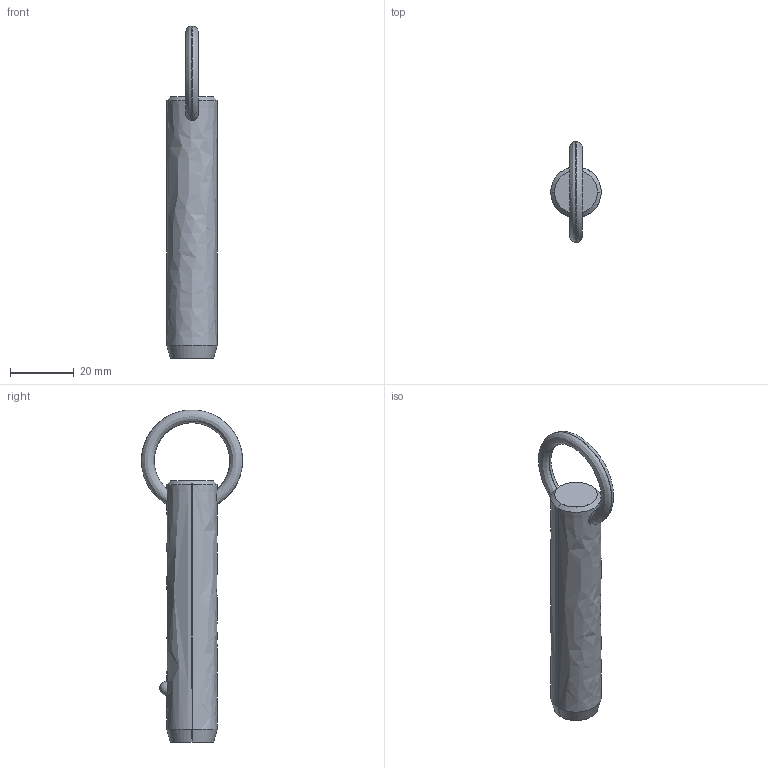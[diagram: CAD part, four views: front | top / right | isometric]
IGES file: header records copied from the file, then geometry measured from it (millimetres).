
Start section: SolidWorks IGES file using analytic representation for surfaces
Global section: file name: C:\Users\liam_\OneDrive\Documents\WORK\Work for WixRoyd\Job Files\J-00019 - Matt Davis CAD Checking\04. CAD Drawings\automotion20190605\P1250.2_v2\P1250.2_v2_20190729_IGES\P1250.062-210.igs; native system: SolidWorks 2017; preprocessor: SolidWorks 2017; author: liam_; date: 190729.233217; units: millimetre
Bounding box: 15.8 x 31.7 x 104 mm (x, y, z)
Surface area: 5234.2 mm2 (no closed solid volume)
Topology: 0 solids, 0 shells, 12 faces, 292 edges, 290 vertices
Faces by surface type: revolution 8, bspline 4
